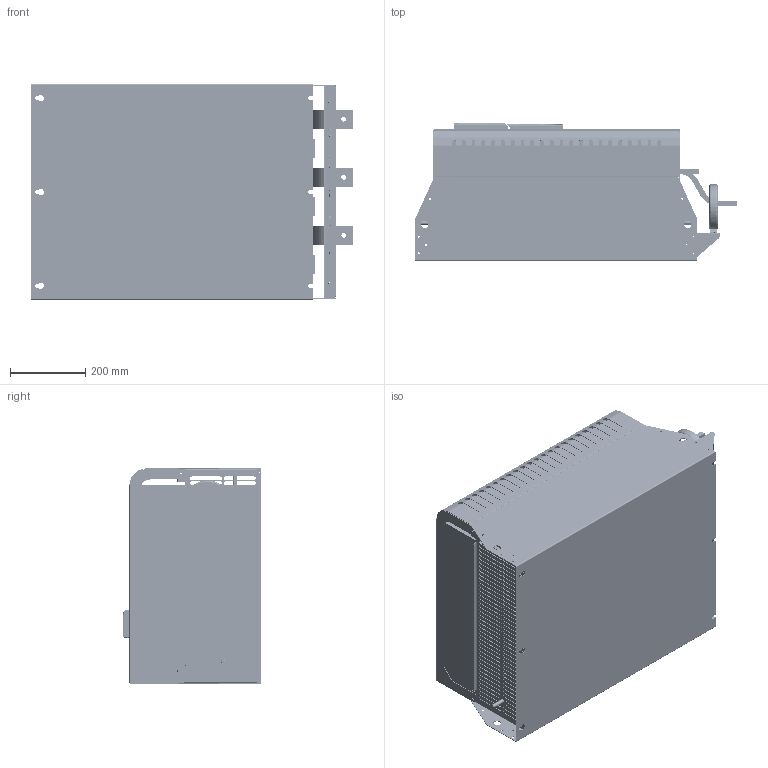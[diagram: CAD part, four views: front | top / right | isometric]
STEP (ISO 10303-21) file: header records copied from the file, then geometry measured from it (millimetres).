
FILE_DESCRIPTION (( 'STEP AP214' ), '1' );
FILE_NAME ('722-13774-00A.STEP', '2012-01-19T03:38:26', ( 'Mech Eng Contractor' ), ( 'AuCom Electronics Ltd' ), 'SwSTEP 2.0', 'SolidWorks 2010', '' );
FILE_SCHEMA (( 'AUTOMOTIVE_DESIGN' ));
Length unit declared in the file: millimetre
Products named in the file (1): 722-13774-00A
Bounding box: 855.5 x 368.55 x 573.87 mm (x, y, z)
Volume: 121967983.8 mm3; surface area: 3244979.3 mm2
Topology: 2 solids, 18 shells, 6710 faces, 17004 edges, 10737 vertices
Faces by surface type: plane 3324, cylinder 1743, bspline 1010, torus 268, cone 261, sphere 104
Entity records: 319579 total; most frequent: CARTESIAN_POINT 91612, ORIENTED_EDGE 33810, DIRECTION 30189, EDGE_CURVE 16905, VERTEX_POINT 10737, VECTOR 10219, LINE 10219, AXIS2_PLACEMENT_3D 9985
